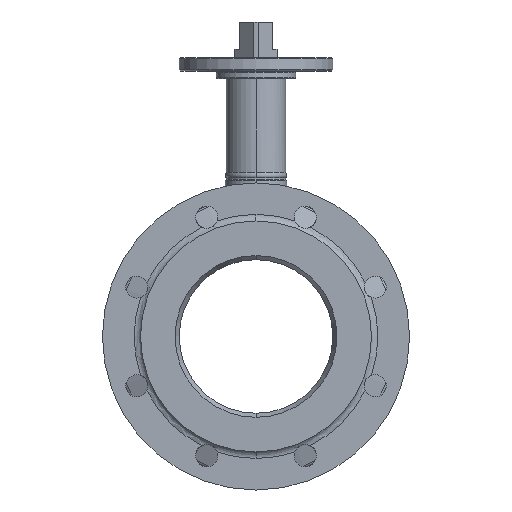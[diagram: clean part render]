
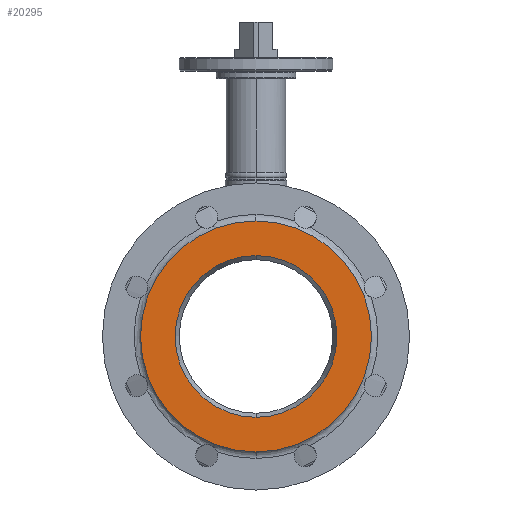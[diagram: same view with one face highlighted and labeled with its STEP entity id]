
A CAD part, left-side view. The second image highlights one B-rep face of the part: STEP entity #20295.
In plain terms, the highlighted planar face has unit normal (-1, 0, 0).
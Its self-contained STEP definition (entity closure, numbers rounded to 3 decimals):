
#6903=CARTESIAN_POINT('',(-162.5,0.,0.));
#6904=DIRECTION('',(1.,0.,0.));
#6905=DIRECTION('',(0.,0.,-1.));
#6906=AXIS2_PLACEMENT_3D('',#6903,#6904,#6905);
#6908=CARTESIAN_POINT('',(-162.5,0.,0.));
#6909=DIRECTION('',(1.,0.,0.));
#6910=DIRECTION('',(0.,0.,1.));
#6911=AXIS2_PLACEMENT_3D('',#6908,#6909,#6910);
#6913=CARTESIAN_POINT('',(-162.5,0.,0.));
#6914=DIRECTION('',(1.,0.,0.));
#6915=DIRECTION('',(0.,0.,-1.));
#6916=AXIS2_PLACEMENT_3D('',#6913,#6914,#6915);
#6918=CARTESIAN_POINT('',(-162.5,0.,0.));
#6919=DIRECTION('',(1.,0.,0.));
#6920=DIRECTION('',(0.,0.,1.));
#6921=AXIS2_PLACEMENT_3D('',#6918,#6919,#6920);
#9625=CARTESIAN_POINT('',(-162.5,0.,-65.85));
#9626=CARTESIAN_POINT('',(-162.5,0.,65.85));
#9627=VERTEX_POINT('',#9625);
#9628=VERTEX_POINT('',#9626);
#9629=CARTESIAN_POINT('',(-162.5,0.,-94.));
#9630=CARTESIAN_POINT('',(-162.5,0.,94.));
#9631=VERTEX_POINT('',#9629);
#9632=VERTEX_POINT('',#9630);
#20280=CARTESIAN_POINT('',(-162.5,0.,0.));
#20281=DIRECTION('',(1.,0.,0.));
#20282=DIRECTION('',(0.,0.,-1.));
#20283=AXIS2_PLACEMENT_3D('',#20280,#20281,#20282);
#20284=PLANE('',#20283);
#20286=ORIENTED_EDGE('',*,*,#20285,.T.);
#20288=ORIENTED_EDGE('',*,*,#20287,.T.);
#20289=EDGE_LOOP('',(#20286,#20288));
#20290=FACE_OUTER_BOUND('',#20289,.F.);
#20291=ORIENTED_EDGE('',*,*,#20273,.F.);
#20292=ORIENTED_EDGE('',*,*,#20259,.F.);
#20293=EDGE_LOOP('',(#20291,#20292));
#20294=FACE_BOUND('',#20293,.F.);
#20295=ADVANCED_FACE('',(#20290,#20294),#20284,.F.);
#6907=CIRCLE('',#6906,94.);
#6912=CIRCLE('',#6911,94.);
#6917=CIRCLE('',#6916,65.85);
#6922=CIRCLE('',#6921,65.85);
#20259=EDGE_CURVE('',#9628,#9627,#6922,.T.);
#20273=EDGE_CURVE('',#9627,#9628,#6917,.T.);
#20285=EDGE_CURVE('',#9631,#9632,#6907,.T.);
#20287=EDGE_CURVE('',#9632,#9631,#6912,.T.);
